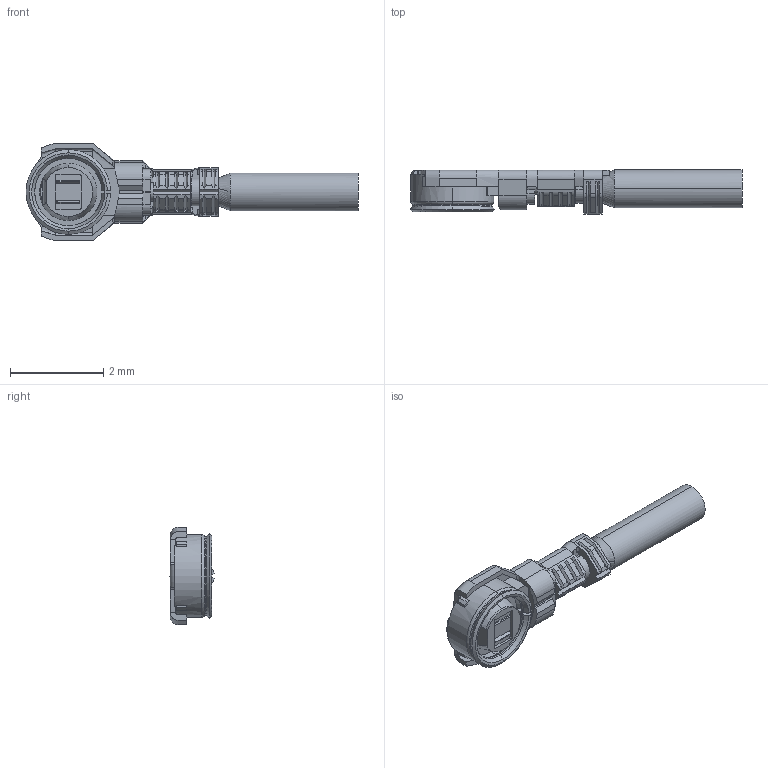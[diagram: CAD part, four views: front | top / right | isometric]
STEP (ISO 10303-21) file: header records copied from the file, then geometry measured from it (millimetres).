
FILE_DESCRIPTION (( 'STEP AP203' ), '1' );
FILE_NAME ('20572-00xR-08C PLUG STEP R3 ALL.STEP', '2018-04-27T08:10:10', ( '' ), ( '' ), 'SwSTEP 2.0', 'SolidWorks 2017', '' );
FILE_SCHEMA (( 'CONFIG_CONTROL_DESIGN' ));
Length unit declared in the file: millimetre
Products named in the file (1): 20572-00xR-08C PLUG STEP R3 ALL
Bounding box: 7.13 x 0.94 x 2.1 mm (x, y, z)
Volume: 5.2 mm3; surface area: 34.8 mm2
Topology: 1 solids, 1 shells, 358 faces, 941 edges, 594 vertices
Faces by surface type: plane 208, cylinder 73, cone 38, bspline 20, torus 19
Entity records: 12778 total; most frequent: CARTESIAN_POINT 4068, ORIENTED_EDGE 1882, DIRECTION 1688, EDGE_CURVE 941, LINE 626, VECTOR 626, VERTEX_POINT 594, AXIS2_PLACEMENT_3D 531
